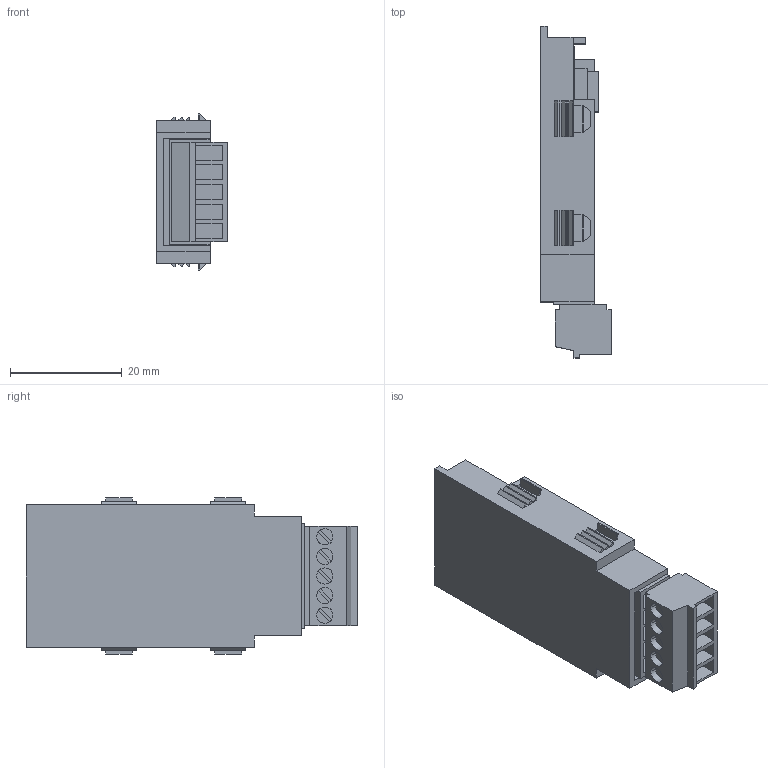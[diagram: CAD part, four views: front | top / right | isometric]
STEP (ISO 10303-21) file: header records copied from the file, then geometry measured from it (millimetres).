
FILE_DESCRIPTION (( 'STEP AP203' ), '1' );
FILE_NAME ('afp0hccs1SLDASM.STEP', '2017-08-29T10:12:19', ( '' ), ( '' ), 'SwSTEP 2.0', 'SolidWorks 2014', '' );
FILE_SCHEMA (( 'CONFIG_CONTROL_DESIGN' ));
Length unit declared in the file: millimetre
Products named in the file (3): afp0hccs1; afp0hccs1SLDASM; afp0hccs1_terminal
Assembly tree (2 placements, depth 2):
  afp0hccs1SLDASM
    afp0hccs1
    afp0hccs1_terminal
Bounding box: 12.65 x 59.3 x 27.9 mm (x, y, z)
Volume: 6006.5 mm3; surface area: 9071 mm2
Topology: 2 solids, 2 shells, 301 faces, 790 edges, 520 vertices
Faces by surface type: plane 291, cylinder 10
Entity records: 9413 total; most frequent: CARTESIAN_POINT 1616, ORIENTED_EDGE 1580, DIRECTION 1442, EDGE_CURVE 790, LINE 750, VECTOR 750, VERTEX_POINT 520, AXIS2_PLACEMENT_3D 346
